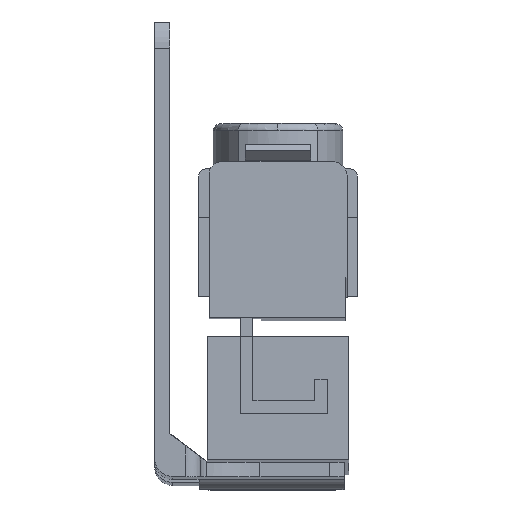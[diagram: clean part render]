
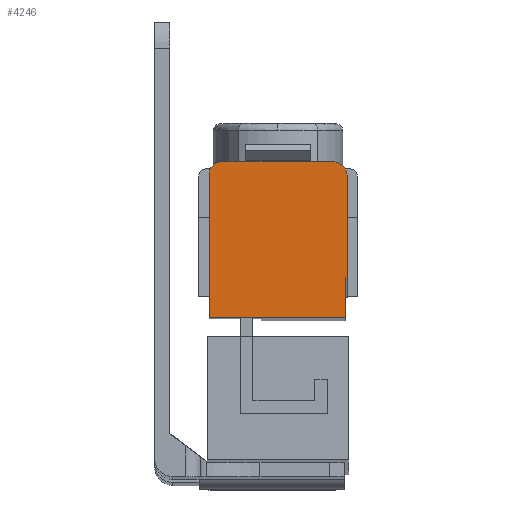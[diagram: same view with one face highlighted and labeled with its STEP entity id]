
A CAD part, front view. The second image highlights one B-rep face of the part: STEP entity #4246.
In plain terms, the highlighted planar face has unit normal (0, -1, 0.011).
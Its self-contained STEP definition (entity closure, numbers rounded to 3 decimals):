
#481 = DIRECTION ( 'NONE',  ( 0., -1., 0.01 ) ) ;
#482 = DIRECTION ( 'NONE',  ( 0., -0.01, -1. ) ) ;
#483 = PLANE ( 'NONE',  #2255 ) ;
#484 = CARTESIAN_POINT ( 'NONE',  ( 9.25, -24.566, -6.021 ) ) ;
#966 = ORIENTED_EDGE ( 'NONE', *, *, #1966, .T. ) ;
#967 = ORIENTED_EDGE ( 'NONE', *, *, #1962, .T. ) ;
#968 = ORIENTED_EDGE ( 'NONE', *, *, #1958, .T. ) ;
#969 = ORIENTED_EDGE ( 'NONE', *, *, #1955, .T. ) ;
#978 = ORIENTED_EDGE ( 'NONE', *, *, #1951, .T. ) ;
#979 = ORIENTED_EDGE ( 'NONE', *, *, #1948, .T. ) ;
#1156 = ORIENTED_EDGE ( 'NONE', *, *, #1963, .T. ) ;
#1158 = ORIENTED_EDGE ( 'NONE', *, *, #1967, .T. ) ;
#1698 = EDGE_LOOP ( 'NONE', ( #979, #978, #969, #968, #967, #966, #1158, #1156 ) ) ;
#1948 = EDGE_CURVE ( 'NONE', #4788, #4787, #3639, .T. ) ;
#1951 = EDGE_CURVE ( 'NONE', #4787, #4791, #3627, .T. ) ;
#1955 = EDGE_CURVE ( 'NONE', #4791, #5200, #3617, .T. ) ;
#1958 = EDGE_CURVE ( 'NONE', #5200, #5245, #3603, .T. ) ;
#1962 = EDGE_CURVE ( 'NONE', #5245, #5195, #3590, .T. ) ;
#1963 = EDGE_CURVE ( 'NONE', #4783, #4788, #3586, .T. ) ;
#1966 = EDGE_CURVE ( 'NONE', #5195, #5191, #3576, .T. ) ;
#1967 = EDGE_CURVE ( 'NONE', #5191, #4783, #3573, .T. ) ;
#2081 = AXIS2_PLACEMENT_3D ( 'NONE', #3557, #3555, #3534 ) ;
#2082 = AXIS2_PLACEMENT_3D ( 'NONE', #3535, #3458, #3456 ) ;
#2255 = AXIS2_PLACEMENT_3D ( 'NONE', #484, #481, #482 ) ;
#2594 = FACE_OUTER_BOUND ( 'NONE', #1698, .T. ) ;
#3333 = CARTESIAN_POINT ( 'NONE',  ( 26.5, -24.569, -6.321 ) ) ;
#3366 = DIRECTION ( 'NONE',  ( 0., 0.01, 1. ) ) ;
#3405 = DIRECTION ( 'NONE',  ( 0., -0.01, -1. ) ) ;
#3407 = CARTESIAN_POINT ( 'NONE',  ( 7.5, -24.566, -6.021 ) ) ;
#3454 = CARTESIAN_POINT ( 'NONE',  ( 26.25, -24.773, -25.769 ) ) ;
#3456 = DIRECTION ( 'NONE',  ( 0., -0.01, -1. ) ) ;
#3458 = DIRECTION ( 'NONE',  ( 0., -1., 0.01 ) ) ;
#3491 = CARTESIAN_POINT ( 'NONE',  ( 26.25, -24.773, -25.769 ) ) ;
#3524 = DIRECTION ( 'NONE',  ( 1., 0., 0. ) ) ;
#3534 = DIRECTION ( 'NONE',  ( 0., 0.01, 1. ) ) ;
#3535 = CARTESIAN_POINT ( 'NONE',  ( 9.25, -24.566, -6.021 ) ) ;
#3552 = DIRECTION ( 'NONE',  ( -1., 0., 0. ) ) ;
#3553 = CARTESIAN_POINT ( 'NONE',  ( 9.25, -24.548, -4.271 ) ) ;
#3555 = DIRECTION ( 'NONE',  ( 0., -1., 0.01 ) ) ;
#3557 = CARTESIAN_POINT ( 'NONE',  ( 24.45, -24.569, -6.321 ) ) ;
#3571 = VECTOR ( 'NONE', #3673, 1000. ) ;
#3573 = LINE ( 'NONE', #3491, #3571 ) ;
#3575 = VECTOR ( 'NONE', #3524, 1000. ) ;
#3576 = LINE ( 'NONE', #3454, #3575 ) ;
#3584 = VECTOR ( 'NONE', #3598, 1000. ) ;
#3586 = LINE ( 'NONE', #3600, #3584 ) ;
#3588 = VECTOR ( 'NONE', #3405, 1000. ) ;
#3590 = LINE ( 'NONE', #3407, #3588 ) ;
#3598 = DIRECTION ( 'NONE',  ( 1., 0., 0. ) ) ;
#3600 = CARTESIAN_POINT ( 'NONE',  ( 7.5, -24.715, -20.27 ) ) ;
#3603 = CIRCLE ( 'NONE', #2082, 1.75 ) ;
#3614 = VECTOR ( 'NONE', #3552, 1000. ) ;
#3617 = LINE ( 'NONE', #3553, #3614 ) ;
#3627 = CIRCLE ( 'NONE', #2081, 2.05 ) ;
#3638 = VECTOR ( 'NONE', #3366, 1000. ) ;
#3639 = LINE ( 'NONE', #3333, #3638 ) ;
#3673 = DIRECTION ( 'NONE',  ( 0., 0.01, 1. ) ) ;
#4246 = ADVANCED_FACE ( 'NONE', ( #2594 ), #483, .T. ) ;
#4783 = VERTEX_POINT ( 'NONE', #5732 ) ;
#4787 = VERTEX_POINT ( 'NONE', #5811 ) ;
#4788 = VERTEX_POINT ( 'NONE', #5812 ) ;
#4791 = VERTEX_POINT ( 'NONE', #5630 ) ;
#5191 = VERTEX_POINT ( 'NONE', #5683 ) ;
#5195 = VERTEX_POINT ( 'NONE', #5679 ) ;
#5200 = VERTEX_POINT ( 'NONE', #5674 ) ;
#5245 = VERTEX_POINT ( 'NONE', #5996 ) ;
#5630 = CARTESIAN_POINT ( 'NONE',  ( 24.45, -24.548, -4.271 ) ) ;
#5674 = CARTESIAN_POINT ( 'NONE',  ( 9.25, -24.548, -4.271 ) ) ;
#5679 = CARTESIAN_POINT ( 'NONE',  ( 7.5, -24.773, -25.769 ) ) ;
#5683 = CARTESIAN_POINT ( 'NONE',  ( 26.25, -24.773, -25.769 ) ) ;
#5732 = CARTESIAN_POINT ( 'NONE',  ( 26.25, -24.715, -20.27 ) ) ;
#5811 = CARTESIAN_POINT ( 'NONE',  ( 26.5, -24.569, -6.321 ) ) ;
#5812 = CARTESIAN_POINT ( 'NONE',  ( 26.5, -24.715, -20.27 ) ) ;
#5996 = CARTESIAN_POINT ( 'NONE',  ( 7.5, -24.566, -6.021 ) ) ;
